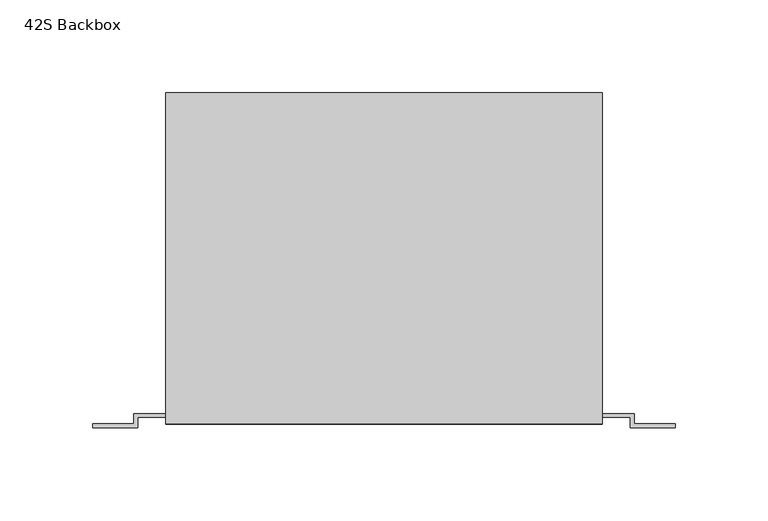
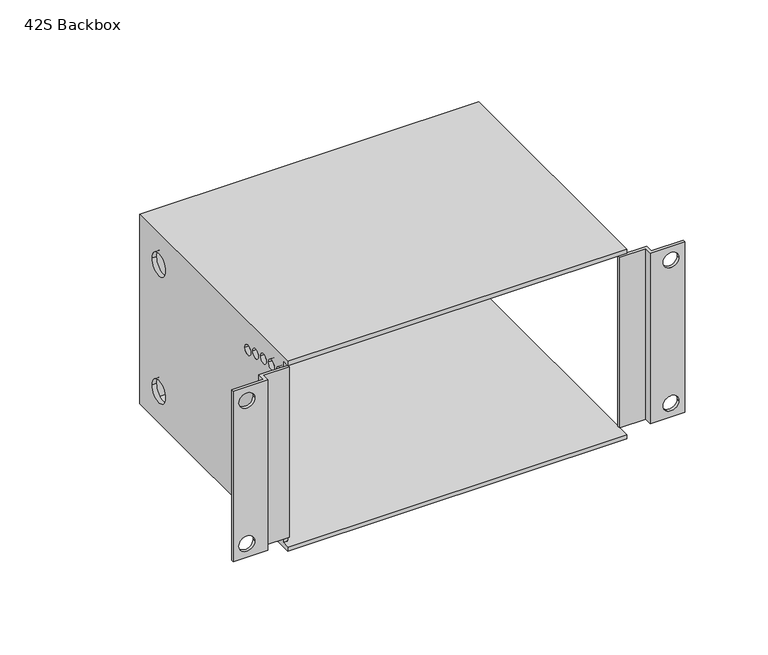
"""IFC4 building model written with IfcOpenShell, lengths in millimetres: proxy geometry, d&b xS-Series 42S Backbox : 42S Backbox."""

from ifc_helpers import new_model, si_unit, frame, origin, place, context, project, spatial, polyline, circle_curve, source, transform, mapped, element, save
from ifc_brep_helpers import plane_surface, revolved_surface, advanced_brep


def proxy_42s_backbox_1e2a87f7(model_context):
    return source(origin(), model_context, "Body", "AdvancedBrep", [
        advanced_brep(
        [(117.5, -90.5, 69.5), (117.5, -90.5, 66.5), (117.5, 84.5, 66.5), (117.5, 84.5, -66.5), (117.5, -90.5, -66.5), (117.5, -90.5, -69.5), (117.5, 87.5, -69.5), (117.5, 87.5, 69.5), (-117.5, -90.5, 69.5), (-117.5, 87.5, 69.5), (-117.5, 87.5, -69.5), (-117.5, -90.5, -69.5), (-117.5, -90.5, -66.5), (-117.5, -85.0, -66.5), (-117.5, -85.0, 66.5), (-117.5, -90.5, 66.5), (-117.5, 56.5, 46.5), (-117.5, 72.5, 46.5), (-117.5, 56.5, -46.5), (-117.5, 72.5, -46.5), (-117.5, -46.0357641, 48.8058809), (-117.5, -39.0357641, 48.8058809), (-117.5, -55.271086, 51.7177667), (-117.5, -48.271086, 51.7177667), (-117.5, -64.7250523, 53.8136606), (-117.5, -57.7250523, 53.8136606), (-117.5, -74.3257126, 55.0776115), (-117.5, -67.3257126, 55.0776115), (-117.5, -84.0, -55.5), (-117.5, -77.0, -55.5), (-117.5, -74.3257126, -55.0776115), (-117.5, -67.3257126, -55.0776115), (-117.5, -64.7250523, -53.8136606), (-117.5, -57.7250523, -53.8136606), (-117.5, -55.271086, -51.7177667), (-117.5, -48.271086, -51.7177667), (-117.5, -46.0357641, -48.8058809), (-117.5, -39.0357641, -48.8058809), (-117.5, -84.0, 55.5), (-117.5, -77.0, 55.5), (-114.5, -85.0, 66.5), (-114.5, 84.5, 66.5), (-114.5, 84.5, -66.5), (-114.5, -85.0, -66.5), (-114.5, 56.5, 46.5), (-114.5, 72.5, 46.5), (-114.5, 56.5, -46.5), (-114.5, 72.5, -46.5), (-114.5, -46.0357641, 48.8058809), (-114.5, -39.0357641, 48.8058809), (-114.5, -55.271086, 51.7177667), (-114.5, -48.271086, 51.7177667), (-114.5, -64.7250523, 53.8136606), (-114.5, -57.7250523, 53.8136606), (-114.5, -74.3257126, 55.0776115), (-114.5, -67.3257126, 55.0776115), (-114.5, -84.0, -55.5), (-114.5, -77.0, -55.5), (-114.5, -74.3257126, -55.0776115), (-114.5, -67.3257126, -55.0776115), (-114.5, -64.7250523, -53.8136606), (-114.5, -57.7250523, -53.8136606), (-114.5, -55.271086, -51.7177667), (-114.5, -48.271086, -51.7177667), (-114.5, -46.0357641, -48.8058809), (-114.5, -39.0357641, -48.8058809), (-114.5, -84.0, 55.5), (-114.5, -77.0, 55.5)],
        [
            (0, 1),
            (1, 2),
            (2, 3),
            (3, 4),
            (4, 5),
            (5, 6),
            (6, 7),
            (7, 0),
            (8, 9),
            (9, 10),
            (10, 11),
            (11, 12),
            (12, 13),
            (13, 14),
            (14, 15),
            (15, 8),
            (16, 17, circle_curve(frame((-117.5, 64.5, 46.5), z_axis=(1.0, 0.0, 0.0), x_axis=(0.0, 1.0, 0.0)), 8.0)),
            (17, 16, circle_curve(frame((-117.5, 64.5, 46.5), z_axis=(1.0, 0.0, 0.0), x_axis=(0.0, 1.0, 0.0)), 8.0)),
            (18, 19, circle_curve(frame((-117.5, 64.5, -46.5), z_axis=(1.0, 0.0, 0.0), x_axis=(0.0, 1.0, 0.0)), 8.0)),
            (19, 18, circle_curve(frame((-117.5, 64.5, -46.5), z_axis=(1.0, 0.0, 0.0), x_axis=(0.0, 1.0, 0.0)), 8.0)),
            (20, 21, circle_curve(frame((-117.5, -42.5357641, 48.8058809), z_axis=(1.0, 0.0, 0.0), x_axis=(0.0, 1.0, 0.0)), 3.5)),
            (21, 20, circle_curve(frame((-117.5, -42.5357641, 48.8058809), z_axis=(1.0, 0.0, 0.0), x_axis=(0.0, 1.0, 0.0)), 3.5)),
            (22, 23, circle_curve(frame((-117.5, -51.771086, 51.7177667), z_axis=(1.0, 0.0, 0.0), x_axis=(0.0, 1.0, 0.0)), 3.5)),
            (23, 22, circle_curve(frame((-117.5, -51.771086, 51.7177667), z_axis=(1.0, 0.0, 0.0), x_axis=(0.0, 1.0, 0.0)), 3.5)),
            (24, 25, circle_curve(frame((-117.5, -61.2250523, 53.8136606), z_axis=(1.0, 0.0, 0.0), x_axis=(0.0, 1.0, 0.0)), 3.5)),
            (25, 24, circle_curve(frame((-117.5, -61.2250523, 53.8136606), z_axis=(1.0, 0.0, 0.0), x_axis=(0.0, 1.0, 0.0)), 3.5)),
            (26, 27, circle_curve(frame((-117.5, -70.8257126, 55.0776115), z_axis=(1.0, 0.0, 0.0), x_axis=(0.0, 1.0, 0.0)), 3.5)),
            (27, 26, circle_curve(frame((-117.5, -70.8257126, 55.0776115), z_axis=(1.0, 0.0, 0.0), x_axis=(0.0, 1.0, 0.0)), 3.5)),
            (28, 29, circle_curve(frame((-117.5, -80.5, -55.5), z_axis=(1.0, 0.0, 0.0), x_axis=(0.0, 1.0, 0.0)), 3.5)),
            (29, 28, circle_curve(frame((-117.5, -80.5, -55.5), z_axis=(1.0, 0.0, 0.0), x_axis=(0.0, 1.0, 0.0)), 3.5)),
            (30, 31, circle_curve(frame((-117.5, -70.8257126, -55.0776115), z_axis=(1.0, 0.0, 0.0), x_axis=(0.0, 1.0, 0.0)), 3.5)),
            (31, 30, circle_curve(frame((-117.5, -70.8257126, -55.0776115), z_axis=(1.0, 0.0, 0.0), x_axis=(0.0, 1.0, 0.0)), 3.5)),
            (32, 33, circle_curve(frame((-117.5, -61.2250523, -53.8136606), z_axis=(1.0, 0.0, 0.0), x_axis=(0.0, 1.0, 0.0)), 3.5)),
            (33, 32, circle_curve(frame((-117.5, -61.2250523, -53.8136606), z_axis=(1.0, 0.0, 0.0), x_axis=(0.0, 1.0, 0.0)), 3.5)),
            (34, 35, circle_curve(frame((-117.5, -51.771086, -51.7177667), z_axis=(1.0, 0.0, 0.0), x_axis=(0.0, 1.0, 0.0)), 3.5)),
            (35, 34, circle_curve(frame((-117.5, -51.771086, -51.7177667), z_axis=(1.0, 0.0, 0.0), x_axis=(0.0, 1.0, 0.0)), 3.5)),
            (36, 37, circle_curve(frame((-117.5, -42.5357641, -48.8058809), z_axis=(1.0, 0.0, 0.0), x_axis=(0.0, 1.0, 0.0)), 3.5)),
            (37, 36, circle_curve(frame((-117.5, -42.5357641, -48.8058809), z_axis=(1.0, 0.0, 0.0), x_axis=(0.0, 1.0, 0.0)), 3.5)),
            (38, 39, circle_curve(frame((-117.5, -80.5, 55.5), z_axis=(1.0, 0.0, 0.0), x_axis=(0.0, 1.0, 0.0)), 3.5)),
            (39, 38, circle_curve(frame((-117.5, -80.5, 55.5), z_axis=(1.0, 0.0, 0.0), x_axis=(0.0, 1.0, 0.0)), 3.5)),
            (0, 8),
            (15, 1),
            (14, 40),
            (40, 41),
            (41, 2),
            (41, 42),
            (42, 3),
            (42, 43),
            (43, 13),
            (12, 4),
            (11, 5),
            (10, 6),
            (9, 7),
            (40, 43),
            (44, 45, circle_curve(frame((-114.5, 64.5, 46.5), z_axis=(-1.0, 0.0, 0.0), x_axis=(0.0, 1.0, 0.0)), 8.0)),
            (45, 44, circle_curve(frame((-114.5, 64.5, 46.5), z_axis=(-1.0, 0.0, 0.0), x_axis=(0.0, 1.0, 0.0)), 8.0)),
            (46, 47, circle_curve(frame((-114.5, 64.5, -46.5), z_axis=(-1.0, 0.0, 0.0), x_axis=(0.0, 1.0, 0.0)), 8.0)),
            (47, 46, circle_curve(frame((-114.5, 64.5, -46.5), z_axis=(-1.0, 0.0, 0.0), x_axis=(0.0, 1.0, 0.0)), 8.0)),
            (48, 49, circle_curve(frame((-114.5, -42.5357641, 48.8058809), z_axis=(-1.0, 0.0, 0.0), x_axis=(0.0, 1.0, 0.0)), 3.5)),
            (49, 48, circle_curve(frame((-114.5, -42.5357641, 48.8058809), z_axis=(-1.0, 0.0, 0.0), x_axis=(0.0, 1.0, 0.0)), 3.5)),
            (50, 51, circle_curve(frame((-114.5, -51.771086, 51.7177667), z_axis=(-1.0, 0.0, 0.0), x_axis=(0.0, 1.0, 0.0)), 3.5)),
            (51, 50, circle_curve(frame((-114.5, -51.771086, 51.7177667), z_axis=(-1.0, 0.0, 0.0), x_axis=(0.0, 1.0, 0.0)), 3.5)),
            (52, 53, circle_curve(frame((-114.5, -61.2250523, 53.8136606), z_axis=(-1.0, 0.0, 0.0), x_axis=(0.0, 1.0, 0.0)), 3.5)),
            (53, 52, circle_curve(frame((-114.5, -61.2250523, 53.8136606), z_axis=(-1.0, 0.0, 0.0), x_axis=(0.0, 1.0, 0.0)), 3.5)),
            (54, 55, circle_curve(frame((-114.5, -70.8257126, 55.0776115), z_axis=(-1.0, 0.0, 0.0), x_axis=(0.0, 1.0, 0.0)), 3.5)),
            (55, 54, circle_curve(frame((-114.5, -70.8257126, 55.0776115), z_axis=(-1.0, 0.0, 0.0), x_axis=(0.0, 1.0, 0.0)), 3.5)),
            (56, 57, circle_curve(frame((-114.5, -80.5, -55.5), z_axis=(-1.0, 0.0, 0.0), x_axis=(0.0, 1.0, 0.0)), 3.5)),
            (57, 56, circle_curve(frame((-114.5, -80.5, -55.5), z_axis=(-1.0, 0.0, 0.0), x_axis=(0.0, 1.0, 0.0)), 3.5)),
            (58, 59, circle_curve(frame((-114.5, -70.8257126, -55.0776115), z_axis=(-1.0, 0.0, 0.0), x_axis=(0.0, 1.0, 0.0)), 3.5)),
            (59, 58, circle_curve(frame((-114.5, -70.8257126, -55.0776115), z_axis=(-1.0, 0.0, 0.0), x_axis=(0.0, 1.0, 0.0)), 3.5)),
            (60, 61, circle_curve(frame((-114.5, -61.2250523, -53.8136606), z_axis=(-1.0, 0.0, 0.0), x_axis=(0.0, 1.0, 0.0)), 3.5)),
            (61, 60, circle_curve(frame((-114.5, -61.2250523, -53.8136606), z_axis=(-1.0, 0.0, 0.0), x_axis=(0.0, 1.0, 0.0)), 3.5)),
            (62, 63, circle_curve(frame((-114.5, -51.771086, -51.7177667), z_axis=(-1.0, 0.0, 0.0), x_axis=(0.0, 1.0, 0.0)), 3.5)),
            (63, 62, circle_curve(frame((-114.5, -51.771086, -51.7177667), z_axis=(-1.0, 0.0, 0.0), x_axis=(0.0, 1.0, 0.0)), 3.5)),
            (64, 65, circle_curve(frame((-114.5, -42.5357641, -48.8058809), z_axis=(-1.0, 0.0, 0.0), x_axis=(0.0, 1.0, 0.0)), 3.5)),
            (65, 64, circle_curve(frame((-114.5, -42.5357641, -48.8058809), z_axis=(-1.0, 0.0, 0.0), x_axis=(0.0, 1.0, 0.0)), 3.5)),
            (66, 67, circle_curve(frame((-114.5, -80.5, 55.5), z_axis=(-1.0, 0.0, 0.0), x_axis=(0.0, 1.0, 0.0)), 3.5)),
            (67, 66, circle_curve(frame((-114.5, -80.5, 55.5), z_axis=(-1.0, 0.0, 0.0), x_axis=(0.0, 1.0, 0.0)), 3.5)),
            (44, 16),
            (17, 45),
            (46, 18),
            (19, 47),
            (48, 20),
            (21, 49),
            (50, 22),
            (23, 51),
            (52, 24),
            (25, 53),
            (54, 26),
            (27, 55),
            (56, 28),
            (29, 57),
            (58, 30),
            (31, 59),
            (60, 32),
            (33, 61),
            (62, 34),
            (35, 63),
            (64, 36),
            (37, 65),
            (66, 38),
            (39, 67),
        ],
        [
            plane_surface(frame((117.5, -90.5, -374.3), z_axis=(1.0, 0.0, 0.0), x_axis=(0.0, 0.0, -1.0))),
            plane_surface(frame((-117.5, -90.5, -374.3), z_axis=(-1.0, 0.0, 0.0), x_axis=(0.0, 0.0, 1.0))),
            plane_surface(frame((117.5, -90.5, 69.5), z_axis=(0.0, -1.0, 0.0), x_axis=(-1.0, 0.0, 0.0))),
            plane_surface(frame((117.5, -90.5, 66.5), z_axis=(0.0, 0.0, -1.0), x_axis=(-1.0, 0.0, 0.0))),
            plane_surface(frame((117.5, 84.5, 66.5), z_axis=(0.0, -1.0, 0.0), x_axis=(-1.0, 0.0, 0.0))),
            plane_surface(frame((117.5, 84.5, -66.5), z_axis=(0.0, 0.0, 1.0), x_axis=(-1.0, 0.0, 0.0))),
            plane_surface(frame((117.5, -90.5, -66.5), z_axis=(0.0, -1.0, 0.0), x_axis=(-1.0, 0.0, 0.0))),
            plane_surface(frame((117.5, -90.5, -69.5), z_axis=(0.0, 0.0, -1.0), x_axis=(-1.0, 0.0, 0.0))),
            plane_surface(frame((117.5, 87.5, -69.5), z_axis=(0.0, 1.0, 0.0), x_axis=(-1.0, 0.0, 0.0))),
            plane_surface(frame((117.5, 87.5, 69.5), z_axis=(0.0, 0.0, 1.0), x_axis=(-1.0, 0.0, 0.0))),
            plane_surface(frame((-114.5, -85.0, 69.5), z_axis=(1.0, 0.0, 0.0), x_axis=(0.0, 0.0, -1.0))),
            plane_surface(frame((-114.5, -85.0, 66.5), z_axis=(0.0, -1.0, 0.0), x_axis=(-1.0, 0.0, 0.0))),
            revolved_surface(polyline([(-117.5, 72.5, 46.5), (-114.5, 72.5, 46.5)]), (-117.5, 64.5, 46.5), (-1.0, 0.0, 0.0)),
            revolved_surface(polyline([(-117.5, 72.5, -46.5), (-114.5, 72.5, -46.5)]), (-117.5, 64.5, -46.5), (-1.0, 0.0, 0.0)),
            revolved_surface(polyline([(-117.5, -39.0357641, 48.8058809), (-114.5, -39.0357641, 48.8058809)]), (-117.5, -42.5357641, 48.8058809), (-1.0, 0.0, 0.0)),
            revolved_surface(polyline([(-117.5, -48.271086, 51.7177667), (-114.5, -48.271086, 51.7177667)]), (-117.5, -51.771086, 51.7177667), (-1.0, 0.0, 0.0)),
            revolved_surface(polyline([(-117.5, -57.7250523, 53.8136606), (-114.5, -57.7250523, 53.8136606)]), (-117.5, -61.2250523, 53.8136606), (-1.0, 0.0, 0.0)),
            revolved_surface(polyline([(-117.5, -67.3257126, 55.0776115), (-114.5, -67.3257126, 55.0776115)]), (-117.5, -70.8257126, 55.0776115), (-1.0, 0.0, 0.0)),
            revolved_surface(polyline([(-117.5, -77.0, -55.5), (-114.5, -77.0, -55.5)]), (-117.5, -80.5, -55.5), (-1.0, 0.0, 0.0)),
            revolved_surface(polyline([(-117.5, -67.3257126, -55.0776115), (-114.5, -67.3257126, -55.0776115)]), (-117.5, -70.8257126, -55.0776115), (-1.0, 0.0, 0.0)),
            revolved_surface(polyline([(-117.5, -57.7250523, -53.8136606), (-114.5, -57.7250523, -53.8136606)]), (-117.5, -61.2250523, -53.8136606), (-1.0, 0.0, 0.0)),
            revolved_surface(polyline([(-117.5, -48.271086, -51.7177667), (-114.5, -48.271086, -51.7177667)]), (-117.5, -51.771086, -51.7177667), (-1.0, 0.0, 0.0)),
            revolved_surface(polyline([(-117.5, -39.0357641, -48.8058809), (-114.5, -39.0357641, -48.8058809)]), (-117.5, -42.5357641, -48.8058809), (-1.0, 0.0, 0.0)),
            revolved_surface(polyline([(-117.5, -77.0, 55.5), (-114.5, -77.0, 55.5)]), (-117.5, -80.5, 55.5), (-1.0, 0.0, 0.0)),
        ],
        [
            (0, [[1, 2, 3, 4, 5, 6, 7, 8]]),
            (1, [[9, 10, 11, 12, 13, 14, 15, 16], [17, 18], [19, 20], [21, 22], [23, 24], [25, 26], [27, 28], [29, 30], [31, 32], [33, 34], [35, 36], [37, 38], [39, 40]]),
            (2, [[-1, 41, -16, 42]]),
            (3, [[-2, -42, -15, 43, 44, 45]]),
            (4, [[-3, -45, 46, 47]]),
            (5, [[-4, -47, 48, 49, -13, 50]]),
            (6, [[-5, -50, -12, 51]]),
            (7, [[-6, -51, -11, 52]]),
            (8, [[-7, -52, -10, 53]]),
            (9, [[-8, -53, -9, -41]]),
            (10, [[54, -48, -46, -44], [55, 56], [57, 58], [59, 60], [61, 62], [63, 64], [65, 66], [67, 68], [69, 70], [71, 72], [73, 74], [75, 76], [77, 78]]),
            (11, [[-54, -43, -14, -49]]),
            (12, [[-55, 79, -18, 80]]),
            (12, [[-56, -80, -17, -79]]),
            (13, [[-57, 81, -20, 82]]),
            (13, [[-58, -82, -19, -81]]),
            (14, [[-59, 83, -22, 84]]),
            (14, [[-60, -84, -21, -83]]),
            (15, [[-61, 85, -24, 86]]),
            (15, [[-62, -86, -23, -85]]),
            (16, [[-63, 87, -26, 88]]),
            (16, [[-64, -88, -25, -87]]),
            (17, [[-65, 89, -28, 90]]),
            (17, [[-66, -90, -27, -89]]),
            (18, [[-67, 91, -30, 92]]),
            (18, [[-68, -92, -29, -91]]),
            (19, [[-69, 93, -32, 94]]),
            (19, [[-70, -94, -31, -93]]),
            (20, [[-71, 95, -34, 96]]),
            (20, [[-72, -96, -33, -95]]),
            (21, [[-73, 97, -36, 98]]),
            (21, [[-74, -98, -35, -97]]),
            (22, [[-75, 99, -38, 100]]),
            (22, [[-76, -100, -37, -99]]),
            (23, [[-77, 101, -40, 102]]),
            (23, [[-78, -102, -39, -101]]),
        ],
    ),
        advanced_brep(
        [(132.5, -92.5, 62.5), (156.5, -92.5, 62.5), (156.5, -90.5, 62.5), (134.5, -90.5, 62.5), (134.5, -85.0, 62.5), (114.5, -85.0, 62.5), (114.5, -87.0, 62.5), (132.5, -87.0, 62.5), (132.5, -92.5, -62.5), (132.5, -87.0, -62.5), (114.5, -87.0, -62.5), (114.5, -85.0, -62.5), (134.5, -85.0, -62.5), (134.5, -90.5, -62.5), (156.5, -90.5, -62.5), (156.5, -92.5, -62.5), (152.5, -90.5, 52.5), (141.5, -90.5, 52.5), (152.5, -90.5, -52.5), (141.5, -90.5, -52.5), (141.5, -92.5, 52.5), (152.5, -92.5, 52.5), (141.5, -92.5, -52.5), (152.5, -92.5, -52.5)],
        [
            (0, 1),
            (1, 2),
            (2, 3),
            (3, 4),
            (4, 5),
            (5, 6),
            (6, 7),
            (7, 0),
            (8, 9),
            (9, 10),
            (10, 11),
            (11, 12),
            (12, 13),
            (13, 14),
            (14, 15),
            (15, 8),
            (7, 9),
            (8, 0),
            (6, 10),
            (5, 11),
            (4, 12),
            (3, 13),
            (2, 14),
            (16, 17, circle_curve(frame((147.0, -90.5, 52.5), z_axis=(0.0, -1.0, 0.0), x_axis=(-1.0, 0.0, 0.0)), 5.5)),
            (17, 16, circle_curve(frame((147.0, -90.5, 52.5), z_axis=(0.0, -1.0, 0.0), x_axis=(-1.0, 0.0, 0.0)), 5.5)),
            (18, 19, circle_curve(frame((147.0, -90.5, -52.5), z_axis=(0.0, -1.0, 0.0), x_axis=(-1.0, 0.0, 0.0)), 5.5)),
            (19, 18, circle_curve(frame((147.0, -90.5, -52.5), z_axis=(0.0, -1.0, 0.0), x_axis=(-1.0, 0.0, 0.0)), 5.5)),
            (1, 15),
            (20, 21, circle_curve(frame((147.0, -92.5, 52.5), z_axis=(0.0, 1.0, 0.0), x_axis=(-1.0, 0.0, 0.0)), 5.5)),
            (21, 20, circle_curve(frame((147.0, -92.5, 52.5), z_axis=(0.0, 1.0, 0.0), x_axis=(-1.0, 0.0, 0.0)), 5.5)),
            (22, 23, circle_curve(frame((147.0, -92.5, -52.5), z_axis=(0.0, 1.0, 0.0), x_axis=(-1.0, 0.0, 0.0)), 5.5)),
            (23, 22, circle_curve(frame((147.0, -92.5, -52.5), z_axis=(0.0, 1.0, 0.0), x_axis=(-1.0, 0.0, 0.0)), 5.5)),
            (20, 17),
            (16, 21),
            (22, 19),
            (18, 23),
        ],
        [
            plane_surface(frame((156.5, -92.5, 62.5), z_axis=(0.0, 0.0, 1.0), x_axis=(1.0, 0.0, 0.0))),
            plane_surface(frame((156.5, -92.5, -62.5), z_axis=(0.0, 0.0, -1.0), x_axis=(-1.0, 0.0, 0.0))),
            plane_surface(frame((132.5, -87.0, 62.5), z_axis=(-1.0, 0.0, 0.0), x_axis=(0.0, 0.0, -1.0))),
            plane_surface(frame((114.5, -87.0, 62.5), z_axis=(0.0, -1.0, 0.0), x_axis=(0.0, 0.0, -1.0))),
            plane_surface(frame((114.5, -85.0, 62.5), z_axis=(-1.0, 0.0, 0.0), x_axis=(0.0, 0.0, -1.0))),
            plane_surface(frame((134.5, -85.0, 62.5), z_axis=(0.0, 1.0, 0.0), x_axis=(0.0, 0.0, -1.0))),
            plane_surface(frame((134.5, -90.5, 62.5), z_axis=(1.0, 0.0, 0.0), x_axis=(0.0, 0.0, -1.0))),
            plane_surface(frame((156.5, -90.5, 62.5), z_axis=(0.0, 1.0, 0.0), x_axis=(0.0, 0.0, -1.0))),
            plane_surface(frame((156.5, -92.5, 62.5), z_axis=(1.0, 0.0, 0.0), x_axis=(0.0, 0.0, -1.0))),
            plane_surface(frame((132.5, -92.5, 62.5), z_axis=(0.0, -1.0, 0.0), x_axis=(0.0, 0.0, -1.0))),
            revolved_surface(polyline([(141.5, -92.5, 52.5), (141.5, -90.5, 52.5)]), (147.0, -90.5, 52.5), (0.0, -1.0, 0.0)),
            revolved_surface(polyline([(141.5, -92.5, -52.5), (141.5, -90.5, -52.5)]), (147.0, -90.5, -52.5), (0.0, -1.0, 0.0)),
        ],
        [
            (0, [[1, 2, 3, 4, 5, 6, 7, 8]]),
            (1, [[9, 10, 11, 12, 13, 14, 15, 16]]),
            (2, [[-8, 17, -9, 18]]),
            (3, [[-7, 19, -10, -17]]),
            (4, [[-6, 20, -11, -19]]),
            (5, [[-5, 21, -12, -20]]),
            (6, [[-4, 22, -13, -21]]),
            (7, [[-3, 23, -14, -22], [24, 25], [26, 27]]),
            (8, [[-2, 28, -15, -23]]),
            (9, [[-1, -18, -16, -28], [29, 30], [31, 32]]),
            (10, [[33, -24, 34, -29]]),
            (10, [[-33, -30, -34, -25]]),
            (11, [[35, -26, 36, -31]]),
            (11, [[-35, -32, -36, -27]]),
        ],
    ),
        advanced_brep(
        [(-132.5, -92.5, 62.5), (-132.5, -87.0, 62.5), (-114.5, -87.0, 62.5), (-114.5, -85.0, 62.5), (-134.5, -85.0, 62.5), (-134.5, -90.5, 62.5), (-156.5, -90.5, 62.5), (-156.5, -92.5, 62.5), (-132.5, -92.5, -62.5), (-156.5, -92.5, -62.5), (-156.5, -90.5, -62.5), (-134.5, -90.5, -62.5), (-134.5, -85.0, -62.5), (-114.5, -85.0, -62.5), (-114.5, -87.0, -62.5), (-132.5, -87.0, -62.5), (-152.5, -90.5, 52.5), (-141.5, -90.5, 52.5), (-152.5, -90.5, -52.5), (-141.5, -90.5, -52.5), (-141.5, -92.5, 52.5), (-152.5, -92.5, 52.5), (-141.5, -92.5, -52.5), (-152.5, -92.5, -52.5)],
        [
            (0, 1),
            (1, 2),
            (2, 3),
            (3, 4),
            (4, 5),
            (5, 6),
            (6, 7),
            (7, 0),
            (8, 9),
            (9, 10),
            (10, 11),
            (11, 12),
            (12, 13),
            (13, 14),
            (14, 15),
            (15, 8),
            (0, 8),
            (15, 1),
            (14, 2),
            (13, 3),
            (12, 4),
            (11, 5),
            (10, 6),
            (16, 17, circle_curve(frame((-147.0, -90.5, 52.5), z_axis=(0.0, -1.0, 0.0), x_axis=(1.0, 0.0, 0.0)), 5.5)),
            (17, 16, circle_curve(frame((-147.0, -90.5, 52.5), z_axis=(0.0, -1.0, 0.0), x_axis=(1.0, 0.0, 0.0)), 5.5)),
            (18, 19, circle_curve(frame((-147.0, -90.5, -52.5), z_axis=(0.0, -1.0, 0.0), x_axis=(1.0, 0.0, 0.0)), 5.5)),
            (19, 18, circle_curve(frame((-147.0, -90.5, -52.5), z_axis=(0.0, -1.0, 0.0), x_axis=(1.0, 0.0, 0.0)), 5.5)),
            (9, 7),
            (20, 21, circle_curve(frame((-147.0, -92.5, 52.5), z_axis=(0.0, 1.0, 0.0), x_axis=(1.0, 0.0, 0.0)), 5.5)),
            (21, 20, circle_curve(frame((-147.0, -92.5, 52.5), z_axis=(0.0, 1.0, 0.0), x_axis=(1.0, 0.0, 0.0)), 5.5)),
            (22, 23, circle_curve(frame((-147.0, -92.5, -52.5), z_axis=(0.0, 1.0, 0.0), x_axis=(1.0, 0.0, 0.0)), 5.5)),
            (23, 22, circle_curve(frame((-147.0, -92.5, -52.5), z_axis=(0.0, 1.0, 0.0), x_axis=(1.0, 0.0, 0.0)), 5.5)),
            (20, 17),
            (16, 21),
            (22, 19),
            (18, 23),
        ],
        [
            plane_surface(frame((-132.5, -90.0, 62.5), z_axis=(0.0, 0.0, 1.0), x_axis=(0.0, 1.0, 0.0))),
            plane_surface(frame((-132.5, -90.0, -62.5), z_axis=(0.0, 0.0, -1.0), x_axis=(0.0, -1.0, 0.0))),
            plane_surface(frame((-132.5, -92.5, 62.5), z_axis=(1.0, 0.0, 0.0), x_axis=(0.0, 0.0, -1.0))),
            plane_surface(frame((-132.5, -87.0, 62.5), z_axis=(0.0, -1.0, 0.0), x_axis=(0.0, 0.0, -1.0))),
            plane_surface(frame((-114.5, -87.0, 62.5), z_axis=(1.0, 0.0, 0.0), x_axis=(0.0, 0.0, -1.0))),
            plane_surface(frame((-114.5, -85.0, 62.5), z_axis=(0.0, 1.0, 0.0), x_axis=(0.0, 0.0, -1.0))),
            plane_surface(frame((-134.5, -85.0, 62.5), z_axis=(-1.0, 0.0, 0.0), x_axis=(0.0, 0.0, -1.0))),
            plane_surface(frame((-134.5, -90.5, 62.5), z_axis=(0.0, 1.0, 0.0), x_axis=(0.0, 0.0, -1.0))),
            plane_surface(frame((-156.5, -90.5, 62.5), z_axis=(-1.0, 0.0, 0.0), x_axis=(0.0, 0.0, -1.0))),
            plane_surface(frame((-156.5, -92.5, 62.5), z_axis=(0.0, -1.0, 0.0), x_axis=(0.0, 0.0, -1.0))),
            revolved_surface(polyline([(-141.5, -92.5, 52.5), (-141.5, -90.5, 52.5)]), (-147.0, -90.5, 52.5), (0.0, -1.0, 0.0)),
            revolved_surface(polyline([(-141.5, -92.5, -52.5), (-141.5, -90.5, -52.5)]), (-147.0, -90.5, -52.5), (0.0, -1.0, 0.0)),
        ],
        [
            (0, [[1, 2, 3, 4, 5, 6, 7, 8]]),
            (1, [[9, 10, 11, 12, 13, 14, 15, 16]]),
            (2, [[-1, 17, -16, 18]]),
            (3, [[-2, -18, -15, 19]]),
            (4, [[-3, -19, -14, 20]]),
            (5, [[-4, -20, -13, 21]]),
            (6, [[-5, -21, -12, 22]]),
            (7, [[-6, -22, -11, 23], [24, 25], [26, 27]]),
            (8, [[-7, -23, -10, 28]]),
            (9, [[-8, -28, -9, -17], [29, 30], [31, 32]]),
            (10, [[33, -24, 34, -29]]),
            (10, [[-33, -30, -34, -25]]),
            (11, [[35, -26, 36, -31]]),
            (11, [[-35, -32, -36, -27]]),
        ],
    ),
    ])


if __name__ == "__main__":
    model = new_model("IFC4")
    model_context = context("Model", 3, world=origin())
    ifc_project = project(units=[si_unit("LENGTHUNIT", "METRE", prefix="MILLI")], contexts=[model_context])
    site = spatial("IfcSite", under=ifc_project)
    building = spatial("IfcBuilding", under=site)
    placement = place(None, origin())
    proxy_42s_backbox_shape = proxy_42s_backbox_1e2a87f7(model_context)
    element("IfcBuildingElementProxy", 1, Name="d&b xS-Series 42S Backbox : 42S Backbox", ObjectType="d&b xS-Series 42S Backbox : 42S Backbox", at=placement, inside=building, context=model_context, shape_type="MappedRepresentation", body=[
        mapped(proxy_42s_backbox_shape, transform((0.0, 0.0, 0.0), x_axis=(1.0, 0.0, 0.0), y_axis=(0.0, 1.0, 0.0), z_axis=(0.0, 0.0, 1.0))),
    ])
    save(model, "model.ifc")
